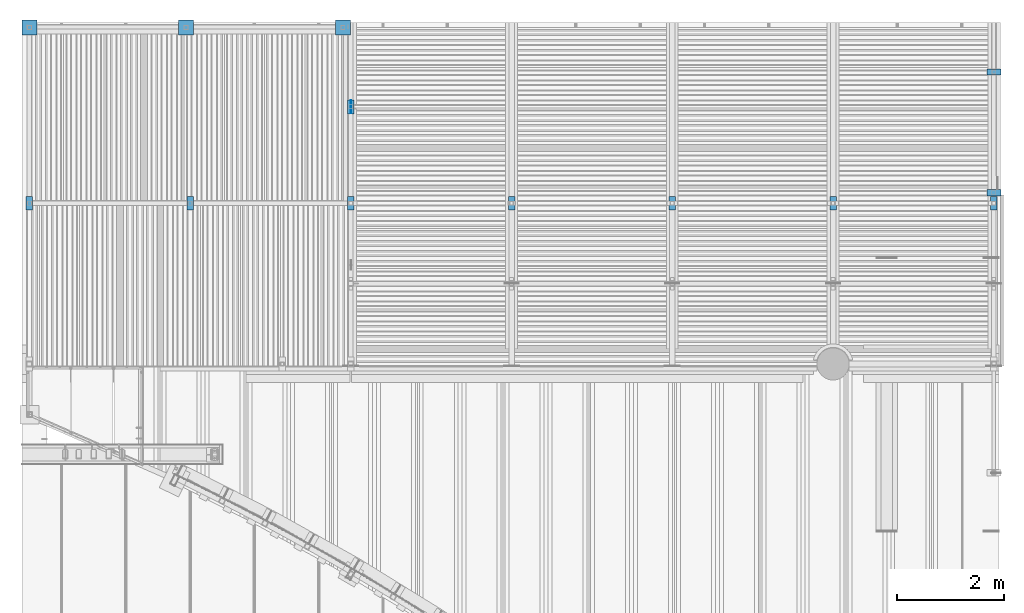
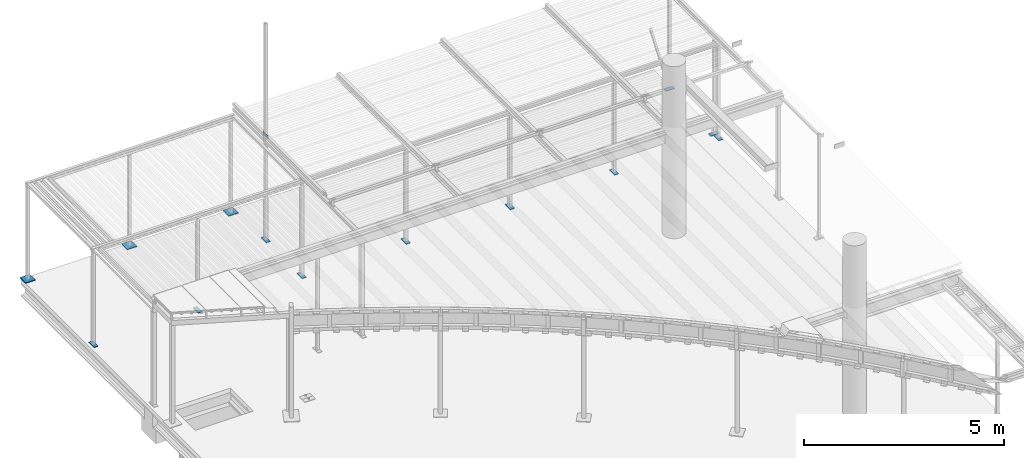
# One storey, part 9 of 98: 14 columns.
"""IFC2X3 building model written with IfcOpenShell, lengths in millimetres."""

from ifc_helpers import new_model, entity, si_unit, converted_unit, derived_unit, direction, frame, origin_with_axes, place, context, subcontext, project, spatial, faceted_brep, material, type_object, element, save


model = new_model("IFC2X3")

# Units and contexts
model_context = context("Model", 3, precision=0.01, world=frame((0.0, 4.29681676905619e-09, 0.0)), true_north=direction((4.01073788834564e-13, 1.0)))
plan_context = context("Plan", 3, precision=0.01, world=frame((0.0, 4.29681676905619e-09, 0.0)), true_north=direction((4.01073788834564e-13, 1.0)))
body_context = subcontext(model_context, "Body", "Model", "MODEL_VIEW")
ifc_project = project(units=[converted_unit("PLANEANGLEUNIT", "DEGREE", entity("IfcPositiveLengthMeasure", 0.0174532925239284), si_unit("PLANEANGLEUNIT", "RADIAN"), dimensions=[0, 0, 0, 0, 0, 0, 0]), si_unit("AREAUNIT", "SQUARE_METRE"), si_unit("LENGTHUNIT", "METRE", prefix="MILLI"), si_unit("MASSUNIT", "GRAM", prefix="KILO"), si_unit("POWERUNIT", "WATT"), si_unit("PRESSUREUNIT", "PASCAL"), si_unit("FORCEUNIT", "NEWTON", prefix="KILO"), si_unit("ELECTRICCURRENTUNIT", "AMPERE"), si_unit("THERMODYNAMICTEMPERATUREUNIT", "DEGREE_CELSIUS"), si_unit("TIMEUNIT", "SECOND"), si_unit("VOLUMEUNIT", "CUBIC_METRE"), derived_unit("LINEARVELOCITYUNIT", [(si_unit("LENGTHUNIT", "METRE"), 1), (si_unit("TIMEUNIT", "SECOND"), -1)]), derived_unit("VOLUMETRICFLOWRATEUNIT", [(si_unit("VOLUMEUNIT", "CUBIC_METRE"), 1), (si_unit("TIMEUNIT", "SECOND"), -1)]), derived_unit("THERMALTRANSMITTANCEUNIT", [(si_unit("POWERUNIT", "WATT"), 1), (si_unit("THERMODYNAMICTEMPERATUREUNIT", "KELVIN"), -1), (si_unit("AREAUNIT", "SQUARE_METRE"), -1)])], contexts=[model_context, plan_context])

# Site, building, storey
site_placement = place(None, frame((0.0, -4.29681676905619e-09, 0.0), z_axis=(0.0, 0.0, 1.0), x_axis=(1.0, 0.0, 0.0)))
site = spatial("IfcSite", under=ifc_project, at=site_placement, Name="Gardermoen", CompositionType="ELEMENT")
building_placement = place(site_placement, frame((0.0, 4.29681676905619e-09, 0.0), z_axis=(0.0, 0.0, 1.0), x_axis=(1.0, 0.0, 0.0)))
building = spatial("IfcBuilding", under=site, at=building_placement, Name="TS", CompositionType="ELEMENT")
storey_placement = place(building_placement, origin_with_axes())
storey = spatial("IfcBuildingStorey", under=building, at=storey_placement, Name="D", CompositionType="ELEMENT", Elevation=0.0)

# Columns
ifc_material_1 = material(Name="STEEL/S355")
column_type_1 = type_object("IfcColumnType", Name="PL10*80", PredefinedType="NOTDEFINED")
column_1_placement = place(storey_placement, frame((520000.0, 419425.0, 207159.999854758), z_axis=(0.0, -1.0, 0.0), x_axis=(0.0, 0.0, -1.0)))
element("IfcColumn", 1, at=column_1_placement, inside=storey, type_object=column_type_1, material=ifc_material_1, Name="STÅLSØYLE", ObjectType="PL10*80", context=body_context, shape_type="Brep", body=[
    faceted_brep([(0.0, -5.0, 0.0), (1.16415321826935e-10, -4.99999999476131, 249.999999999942), (1.16415321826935e-10, 5.00000000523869, 250.000000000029), (0.0, 5.0, 0.0), (80.0, -5.0, 250.0), (80.0, 5.0, 250.0), (80.0, -5.00000000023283, 1.16415321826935e-10), (80.0, 5.00000000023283, -2.3283064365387e-10)], [[[0, 1, 2, 3]], [[1, 4, 5, 2]], [[4, 6, 7, 5]], [[6, 0, 3, 7]], [[5, 7, 3, 2]], [[6, 4, 1, 0]]]),
])
ifc_material_2 = material(Name="STEEL/S355J0")
column_type_2 = type_object("IfcColumnType", Name="PL15*260", PredefinedType="NOTDEFINED")
column_2_placement = place(storey_placement, frame((532000.0, 420010.000682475, 203937.499237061), z_axis=(1.0, 0.0, 0.0), x_axis=(0.0, -1.0, 0.0)))
element("IfcColumn", 2, at=column_2_placement, inside=storey, type_object=column_type_2, material=ifc_material_2, Name="STÅLSØYLE", ObjectType="PL15*260", context=body_context, shape_type="Brep", body=[
    faceted_brep([(0.0, 7.5, -130.0), (0.0, 7.5, 130.0), (120.0, 7.50000000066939, 130.000000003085), (120.0, 7.49999999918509, -130.000000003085), (0.0, -7.5, 130.0), (120.0, -7.4999999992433, 130.000000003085), (0.0, -7.5, -130.0), (120.0, -7.50000000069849, -130.000000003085)], [[[0, 1, 2, 3]], [[1, 4, 5, 2]], [[4, 6, 7, 5]], [[6, 0, 3, 7]], [[5, 7, 3, 2]], [[6, 4, 1, 0]]]),
])
for number, where, z_axis, x_axis in (
    (3, (519940.0, 419300.0, 203937.5), (0.0, 1.0, 0.0), (1.0, 0.0, 0.0)),
    (4, (514060.004834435, 417499.940851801, 203937.500000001), (9.99999902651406e-08, -0.99999999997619, 6.90000000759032e-06), (-0.999999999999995, -9.99999902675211e-08, 0.0)),
    (5, (517060.004834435, 417499.940851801, 203937.500000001), (9.99999902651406e-08, -0.99999999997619, 6.90000000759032e-06), (-0.999999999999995, -9.99999902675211e-08, 0.0)),
    (6, (520060.004834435, 417499.940851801, 203937.500000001), (9.99999902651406e-08, -0.99999999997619, 6.90000000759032e-06), (-0.999999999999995, -9.99999902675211e-08, 0.0)),
    (7, (523060.004834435, 417499.940851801, 203937.500000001), (9.99999902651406e-08, -0.99999999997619, 6.90000000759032e-06), (-0.999999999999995, -9.99999902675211e-08, 0.0)),
    (8, (526060.004834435, 417499.940851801, 203937.500000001), (9.99999902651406e-08, -0.99999999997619, 6.90000000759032e-06), (-0.999999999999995, -9.99999902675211e-08, 0.0)),
    (9, (529060.004834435, 417499.940851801, 203937.500000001), (9.99999902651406e-08, -0.99999999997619, 6.90000000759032e-06), (-0.999999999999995, -9.99999902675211e-08, 0.0)),
    (10, (532060.004834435, 417499.940851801, 203937.500000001), (9.99999902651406e-08, -0.99999999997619, 6.90000000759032e-06), (-0.999999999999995, -9.99999902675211e-08, 0.0)),
    (11, (532000.004834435, 417755.980851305, 203937.499582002), (1.0, 0.0, 0.0), (0.0, -0.999999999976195, 6.90000000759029e-06)),
):
    element("IfcColumn", number, at=place(storey_placement, frame(where, z_axis=z_axis, x_axis=x_axis)), inside=storey, type_object=column_type_2, material=ifc_material_1, Name="STÅLSØYLE", ObjectType="PL15*260", context=body_context, shape_type="Brep", body=[
        faceted_brep([(0.0, 7.5, -130.0), (0.0, 7.5, 130.0), (120.0, 7.50000000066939, 130.000000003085), (120.0, 7.49999999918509, -130.000000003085), (0.0, -7.5, 130.0), (120.0, -7.4999999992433, 130.000000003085), (0.0, -7.5, -130.0), (120.0, -7.50000000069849, -130.000000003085)], [[[0, 1, 2, 3]], [[1, 4, 5, 2]], [[4, 6, 7, 5]], [[6, 0, 3, 7]], [[5, 7, 3, 2]], [[6, 4, 1, 0]]]),
    ])
column_type_3 = type_object("IfcColumnType", Name="PL20*280", PredefinedType="NOTDEFINED")
for number, where, z_axis, x_axis in (
    (12, (517065.0, 420780.00496895, 203940.0), (9.99999902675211e-08, -0.999999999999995, 0.0), (-0.999999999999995, -9.99999902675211e-08, 0.0)),
    (13, (519990.0, 420780.00496895, 203940.0), (9.99999902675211e-08, -0.999999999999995, 0.0), (-0.999999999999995, -9.99999902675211e-08, 0.0)),
    (14, (514140.0, 420780.00496895, 203940.0), (9.99999902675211e-08, -0.999999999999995, 0.0), (-0.999999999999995, -9.99999902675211e-08, 0.0)),
):
    element("IfcColumn", number, at=place(storey_placement, frame(where, z_axis=z_axis, x_axis=x_axis)), inside=storey, type_object=column_type_3, material=ifc_material_1, Name="STÅLSØYLE", ObjectType="PL20*280", context=body_context, shape_type="Brep", body=[
        faceted_brep([(-2.91038304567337e-10, 9.9999999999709, -140.0), (-2.91038304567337e-10, 9.9999999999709, 140.0), (279.999999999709, 9.99999999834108, 140.0), (279.999999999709, 9.99999999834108, -140.0), (1.74622982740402e-10, -10.0000000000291, 140.0), (280.000000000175, -10.0000000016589, 140.0), (1.74622982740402e-10, -10.0000000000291, -140.0), (280.000000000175, -10.0000000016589, -140.0)], [[[0, 1, 2, 3]], [[1, 4, 5, 2]], [[4, 6, 7, 5]], [[6, 0, 3, 7]], [[5, 7, 3, 2]], [[6, 4, 1, 0]]]),
    ])

save(model, "model.ifc")
